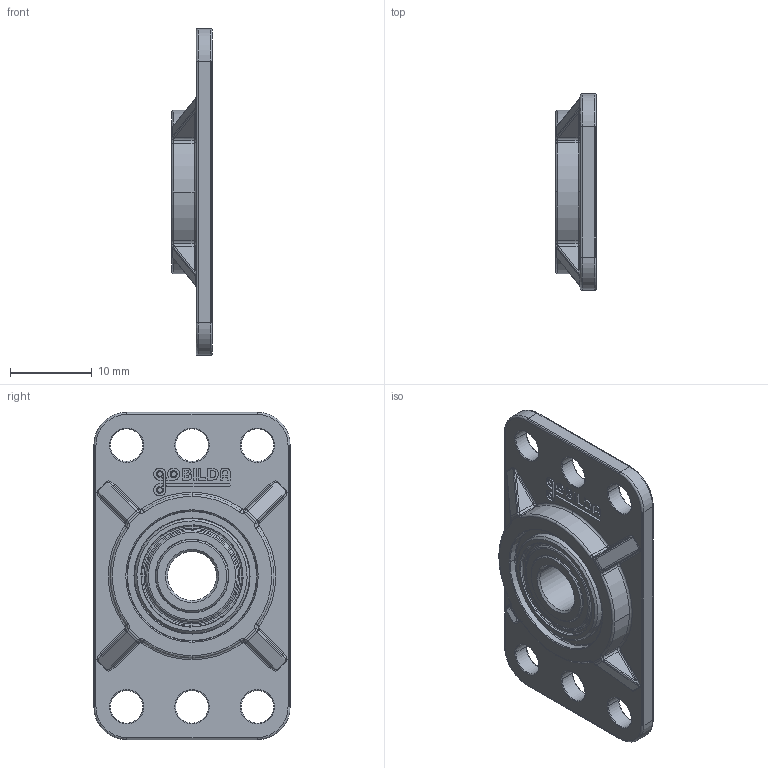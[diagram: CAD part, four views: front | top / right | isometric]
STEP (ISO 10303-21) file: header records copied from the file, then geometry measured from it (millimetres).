
FILE_DESCRIPTION (( 'STEP AP203' ), '1' );
FILE_NAME ('1621-1632-0006 assembly.STEP', '2022-05-05T18:01:40', ( '' ), ( '' ), 'SwSTEP 2.0', 'SolidWorks 2016', '' );
FILE_SCHEMA (( 'CONFIG_CONTROL_DESIGN' ));
Length unit declared in the file: millimetre
Products named in the file (3): 1621-1632-0001; 1611-0514-0006; 1621-1632-0006 assembly
Assembly tree (2 placements, depth 2):
  1621-1632-0006 assembly
    1621-1632-0001
    1611-0514-0006
Bounding box: 5 x 24 x 40 mm (x, y, z)
Volume: 2473.4 mm3; surface area: 3149.8 mm2
Topology: 4 solids, 4 shells, 435 faces, 1076 edges, 680 vertices
Faces by surface type: cylinder 132, plane 114, torus 100, bspline 69, cone 20
Entity records: 14557 total; most frequent: CARTESIAN_POINT 4175, ORIENTED_EDGE 2152, DIRECTION 2068, EDGE_CURVE 1076, AXIS2_PLACEMENT_3D 831, VERTEX_POINT 680, EDGE_LOOP 482, CIRCLE 460
